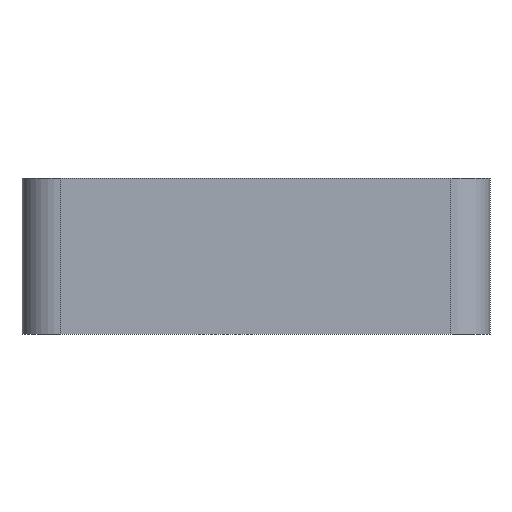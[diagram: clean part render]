
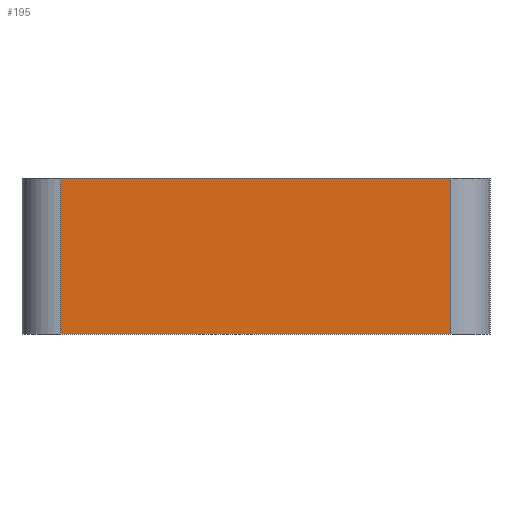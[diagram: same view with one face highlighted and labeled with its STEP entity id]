
A CAD part, front view. The second image highlights one B-rep face of the part: STEP entity #195.
In plain terms, the highlighted planar face has unit normal (0, -1, 0).
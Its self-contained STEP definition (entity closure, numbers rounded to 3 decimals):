
#24 = VERTEX_POINT('',#25);
#25 = CARTESIAN_POINT('',(2.,0.,8.));
#41 = VERTEX_POINT('',#42);
#42 = CARTESIAN_POINT('',(2.,0.,0.));
#49 = EDGE_CURVE('',#41,#24,#50,.T.);
#50 = LINE('',#51,#52);
#51 = CARTESIAN_POINT('',(2.,0.,0.));
#52 = VECTOR('',#53,1.);
#53 = DIRECTION('',(0.,0.,1.));
#64 = EDGE_CURVE('',#24,#65,#67,.T.);
#65 = VERTEX_POINT('',#66);
#66 = CARTESIAN_POINT('',(22.,0.,8.));
#67 = LINE('',#68,#69);
#68 = CARTESIAN_POINT('',(2.,0.,8.));
#69 = VECTOR('',#70,1.);
#70 = DIRECTION('',(1.,0.,-0.));
#195 = ADVANCED_FACE('',(#196),#214,.F.);
#196 = FACE_BOUND('',#197,.F.);
#197 = EDGE_LOOP('',(#198,#206,#207,#208));
#198 = ORIENTED_EDGE('',*,*,#199,.F.);
#199 = EDGE_CURVE('',#41,#200,#202,.T.);
#200 = VERTEX_POINT('',#201);
#201 = CARTESIAN_POINT('',(22.,0.,0.));
#202 = LINE('',#203,#204);
#203 = CARTESIAN_POINT('',(2.,0.,0.));
#204 = VECTOR('',#205,1.);
#205 = DIRECTION('',(1.,0.,-0.));
#206 = ORIENTED_EDGE('',*,*,#49,.T.);
#207 = ORIENTED_EDGE('',*,*,#64,.T.);
#208 = ORIENTED_EDGE('',*,*,#209,.F.);
#209 = EDGE_CURVE('',#200,#65,#210,.T.);
#210 = LINE('',#211,#212);
#211 = CARTESIAN_POINT('',(22.,0.,0.));
#212 = VECTOR('',#213,1.);
#213 = DIRECTION('',(0.,0.,1.));
#214 = PLANE('',#215);
#215 = AXIS2_PLACEMENT_3D('',#216,#217,#218);
#216 = CARTESIAN_POINT('',(2.,0.,0.));
#217 = DIRECTION('',(-0.,1.,0.));
#218 = DIRECTION('',(0.,0.,1.));
